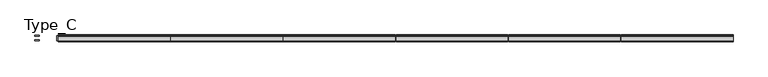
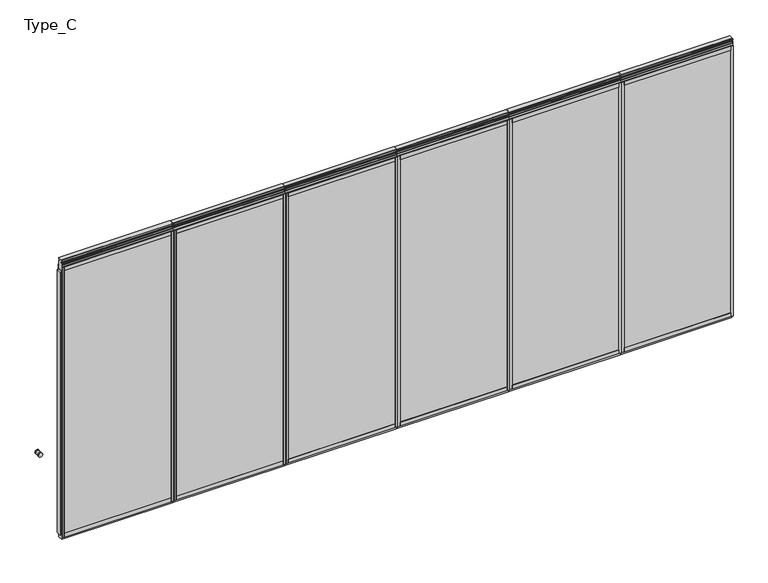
"""IFC4 building model written with IfcOpenShell, lengths in millimetres: proxy geometry, Planner Wall_ダブルガラス(Door) : Type_C."""

from ifc_helpers import new_model, si_unit, point, frame, frame_2d, origin, origin_with_axes, place, context, project, spatial, polyline, circle_curve, trimmed, segment, composite_curve, outline, extrude, source, transform, mapped, element, save


def type_c_f462f6c3(model_context):
    return source(origin(), model_context, "Body", "SweptSolid", [
        extrude(outline(polyline([(1177.125, -25.0), (1177.125, 25.0), (2319.25, 25.0), (2319.25, -25.0), (1177.125, -25.0)])), origin_with_axes(), (0.0, 0.0, 1.0), 65.0),
        extrude(outline(polyline([(2302.75, 25.0), (1199.125, 25.0), (1199.125, 35.0), (2302.75, 35.0), (2302.75, 25.0)])), frame((0.0, 0.0, 2935.0), z_axis=(0.0, 0.0, 1.0), x_axis=(1.0, 0.0, 0.0)), (0.0, 0.0, 1.0), 40.0),
        extrude(outline(polyline([(2302.75, 25.0), (1199.125, 25.0), (1199.125, 35.0), (2302.75, 35.0), (2302.75, 25.0)])), frame((0.0, 0.0, 25.0), z_axis=(0.0, 0.0, 1.0), x_axis=(1.0, 0.0, 0.0)), (0.0, 0.0, 1.0), 40.0),
        extrude(outline(polyline([(1217.125, -27.0), (1199.125, -27.0), (1199.125, 27.0), (1217.125, 27.0), (1217.125, -27.0)])), frame((0.0, 0.0, 65.0), z_axis=(0.0, 0.0, 1.0), x_axis=(1.0, 0.0, 0.0)), (0.0, 0.0, 1.0), 2870.0),
        extrude(outline(polyline([(2302.75, -27.0), (2284.75, -27.0), (2284.75, 27.0), (2302.75, 27.0), (2302.75, -27.0)])), frame((0.0, 0.0, 65.0), z_axis=(0.0, 0.0, 1.0), x_axis=(1.0, 0.0, 0.0)), (0.0, 0.0, 1.0), 2870.0),
        extrude(outline(polyline([(2284.75, -27.0), (1217.125, -27.0), (1217.125, 27.0), (2284.75, 27.0), (2284.75, -27.0)])), frame((0.0, 0.0, 65.0), z_axis=(0.0, 0.0, 1.0), x_axis=(1.0, 0.0, 0.0)), (0.0, 0.0, 1.0), 102.0),
        extrude(outline(polyline([(2284.75, -27.0), (1217.125, -27.0), (1217.125, 27.0), (2284.75, 27.0), (2284.75, -27.0)])), frame((0.0, 0.0, 2833.0), z_axis=(0.0, 0.0, 1.0), x_axis=(1.0, 0.0, 0.0)), (0.0, 0.0, 1.0), 102.0),
        extrude(outline(composite_curve([segment(polyline([(23.5, 3050.1000003), (26.5, 3047.1000003), (26.5, 3032.6)]), True, "CONTINUOUS"), segment(trimmed(circle_curve(frame_2d((25.0, 3032.6)), 1.5), [point((26.5, 3032.6))], [point((25.0, 3031.1))], False, "CARTESIAN"), True, "CONTINUOUS"), segment(polyline([(25.0, 3031.1), (9.0, 3031.1), (9.0, 3019.1000003), (23.5, 3019.1000003), (26.5, 3016.1000003), (26.5, 3001.5)]), True, "CONTINUOUS"), segment(trimmed(circle_curve(frame_2d((25.0, 3001.5)), 1.5), [point((26.5, 3001.5))], [point((25.0, 3000.0))], False, "CARTESIAN"), True, "CONTINUOUS"), segment(polyline([(25.0, 3000.0), (7.5, 3000.0), (7.5, 2994.5), (25.0, 2994.5), (25.0, 2935.0), (-25.0, 2935.0), (-25.0, 2994.5), (-7.5, 2994.5), (-7.5, 3000.0), (-25.0, 3000.0)]), True, "CONTINUOUS"), segment(trimmed(circle_curve(frame_2d((-25.0, 3001.5)), 1.5), [point((-25.0, 3000.0))], [point((-26.5, 3001.5))], False, "CARTESIAN"), True, "CONTINUOUS"), segment(polyline([(-26.5, 3001.5), (-26.5, 3016.1000003), (-23.5, 3019.1000003), (-9.0, 3019.1000003), (-9.0, 3031.1), (-25.0, 3031.1)]), True, "CONTINUOUS"), segment(trimmed(circle_curve(frame_2d((-25.0, 3032.6)), 1.5), [point((-25.0, 3031.1))], [point((-26.5, 3032.6))], False, "CARTESIAN"), True, "CONTINUOUS"), segment(polyline([(-26.5, 3032.6), (-26.5, 3047.1000003), (-23.5, 3050.1000003), (23.5, 3050.1000003)]), True, "CONTINUOUS")], self_intersect=False)), frame((1177.125, 0.0, 0.0), z_axis=(1.0, 0.0, 0.0), x_axis=(0.0, 1.0, 0.0)), (0.0, 0.0, 1.0), 1147.625),
        extrude(outline(polyline([(2302.75, 27.5), (1199.125, 27.5), (1199.125, 32.5), (2302.75, 32.5), (2302.75, 27.5)])), frame((0.0, 0.0, 65.0), z_axis=(0.0, 0.0, 1.0), x_axis=(1.0, 0.0, 0.0)), (0.0, 0.0, 1.0), 2870.0),
        extrude(outline(polyline([(2302.75, -32.5), (1199.125, -32.5), (1199.125, -27.5), (2302.75, -27.5), (2302.75, -32.5)])), frame((0.0, 0.0, 65.0), z_axis=(0.0, 0.0, 1.0), x_axis=(1.0, 0.0, 0.0)), (0.0, 0.0, 1.0), 2870.0),
        extrude(outline(polyline([(2302.75, -35.0), (1199.125, -35.0), (1199.125, -25.0), (2302.75, -25.0), (2302.75, -35.0)])), frame((0.0, 0.0, 2935.0), z_axis=(0.0, 0.0, 1.0), x_axis=(1.0, 0.0, 0.0)), (0.0, 0.0, 1.0), 40.0),
        extrude(outline(polyline([(2302.75, -35.0), (1199.125, -35.0), (1199.125, -25.0), (2302.75, -25.0), (2302.75, -35.0)])), frame((0.0, 0.0, 25.0), z_axis=(0.0, 0.0, 1.0), x_axis=(1.0, 0.0, 0.0)), (0.0, 0.0, 1.0), 40.0),
        extrude(outline(polyline([(1163.625, -25.0), (1163.625, 25.0), (1177.125, 25.0), (1177.125, -25.0), (1163.625, -25.0)])), frame((0.0, 0.0, 53.0), z_axis=(0.0, 0.0, 1.0), x_axis=(1.0, 0.0, 0.0)), (0.0, 0.0, 1.0), 2869.0),
        extrude(outline(polyline([(2302.75, 35.0), (2324.75, 35.0), (2324.75, 25.0), (2302.75, 25.0), (2302.75, 35.0)])), frame((0.0, 0.0, 25.0), z_axis=(0.0, 0.0, 1.0), x_axis=(1.0, 0.0, 0.0)), (0.0, 0.0, 1.0), 2950.0),
        extrude(outline(polyline([(2302.75, -35.0), (2302.75, -25.0), (2324.75, -25.0), (2324.75, -35.0), (2302.75, -35.0)])), frame((0.0, 0.0, 25.0), z_axis=(0.0, 0.0, 1.0), x_axis=(1.0, 0.0, 0.0)), (0.0, 0.0, 1.0), 2950.0),
        extrude(outline(polyline([(1177.125, -35.0), (1177.125, -25.0), (1199.125, -25.0), (1199.125, -35.0), (1177.125, -35.0)])), frame((0.0, 0.0, 25.0), z_axis=(0.0, 0.0, 1.0), x_axis=(1.0, 0.0, 0.0)), (0.0, 0.0, 1.0), 2950.0),
        extrude(outline(polyline([(1177.125, 25.0), (1177.125, 35.0), (1199.125, 35.0), (1199.125, 25.0), (1177.125, 25.0)])), frame((0.0, 0.0, 25.0), z_axis=(0.0, 0.0, 1.0), x_axis=(1.0, 0.0, 0.0)), (0.0, 0.0, 1.0), 2950.0),
        extrude(outline(polyline([(2332.75, -25.0), (2332.75, 25.0), (3474.875, 25.0), (3474.875, -25.0), (2332.75, -25.0)])), origin_with_axes(), (0.0, 0.0, 1.0), 65.0),
        extrude(outline(polyline([(3458.375, 25.0), (2354.75, 25.0), (2354.75, 35.0), (3458.375, 35.0), (3458.375, 25.0)])), frame((0.0, 0.0, 2935.0), z_axis=(0.0, 0.0, 1.0), x_axis=(1.0, 0.0, 0.0)), (0.0, 0.0, 1.0), 40.0),
        extrude(outline(polyline([(3458.375, 25.0), (2354.75, 25.0), (2354.75, 35.0), (3458.375, 35.0), (3458.375, 25.0)])), frame((0.0, 0.0, 25.0), z_axis=(0.0, 0.0, 1.0), x_axis=(1.0, 0.0, 0.0)), (0.0, 0.0, 1.0), 40.0),
        extrude(outline(polyline([(2372.75, -27.0), (2354.75, -27.0), (2354.75, 27.0), (2372.75, 27.0), (2372.75, -27.0)])), frame((0.0, 0.0, 65.0), z_axis=(0.0, 0.0, 1.0), x_axis=(1.0, 0.0, 0.0)), (0.0, 0.0, 1.0), 2870.0),
        extrude(outline(polyline([(3458.375, -27.0), (3440.375, -27.0), (3440.375, 27.0), (3458.375, 27.0), (3458.375, -27.0)])), frame((0.0, 0.0, 65.0), z_axis=(0.0, 0.0, 1.0), x_axis=(1.0, 0.0, 0.0)), (0.0, 0.0, 1.0), 2870.0),
        extrude(outline(polyline([(3440.375, -27.0), (2372.75, -27.0), (2372.75, 27.0), (3440.375, 27.0), (3440.375, -27.0)])), frame((0.0, 0.0, 65.0), z_axis=(0.0, 0.0, 1.0), x_axis=(1.0, 0.0, 0.0)), (0.0, 0.0, 1.0), 102.0),
        extrude(outline(polyline([(3440.375, -27.0), (2372.75, -27.0), (2372.75, 27.0), (3440.375, 27.0), (3440.375, -27.0)])), frame((0.0, 0.0, 2833.0), z_axis=(0.0, 0.0, 1.0), x_axis=(1.0, 0.0, 0.0)), (0.0, 0.0, 1.0), 102.0),
        extrude(outline(composite_curve([segment(polyline([(23.5, 3050.1000003), (26.5, 3047.1000003), (26.5, 3032.6)]), True, "CONTINUOUS"), segment(trimmed(circle_curve(frame_2d((25.0, 3032.6)), 1.5), [point((26.5, 3032.6))], [point((25.0, 3031.1))], False, "CARTESIAN"), True, "CONTINUOUS"), segment(polyline([(25.0, 3031.1), (9.0, 3031.1), (9.0, 3019.1000003), (23.5, 3019.1000003), (26.5, 3016.1000003), (26.5, 3001.5)]), True, "CONTINUOUS"), segment(trimmed(circle_curve(frame_2d((25.0, 3001.5)), 1.5), [point((26.5, 3001.5))], [point((25.0, 3000.0))], False, "CARTESIAN"), True, "CONTINUOUS"), segment(polyline([(25.0, 3000.0), (7.5, 3000.0), (7.5, 2994.5), (25.0, 2994.5), (25.0, 2935.0), (-25.0, 2935.0), (-25.0, 2994.5), (-7.5, 2994.5), (-7.5, 3000.0), (-25.0, 3000.0)]), True, "CONTINUOUS"), segment(trimmed(circle_curve(frame_2d((-25.0, 3001.5)), 1.5), [point((-25.0, 3000.0))], [point((-26.5, 3001.5))], False, "CARTESIAN"), True, "CONTINUOUS"), segment(polyline([(-26.5, 3001.5), (-26.5, 3016.1000003), (-23.5, 3019.1000003), (-9.0, 3019.1000003), (-9.0, 3031.1), (-25.0, 3031.1)]), True, "CONTINUOUS"), segment(trimmed(circle_curve(frame_2d((-25.0, 3032.6)), 1.5), [point((-25.0, 3031.1))], [point((-26.5, 3032.6))], False, "CARTESIAN"), True, "CONTINUOUS"), segment(polyline([(-26.5, 3032.6), (-26.5, 3047.1000003), (-23.5, 3050.1000003), (23.5, 3050.1000003)]), True, "CONTINUOUS")], self_intersect=False)), frame((2332.75, 0.0, 0.0), z_axis=(1.0, 0.0, 0.0), x_axis=(0.0, 1.0, 0.0)), (0.0, 0.0, 1.0), 1147.625),
        extrude(outline(polyline([(3458.375, 27.5), (2354.75, 27.5), (2354.75, 32.5), (3458.375, 32.5), (3458.375, 27.5)])), frame((0.0, 0.0, 65.0), z_axis=(0.0, 0.0, 1.0), x_axis=(1.0, 0.0, 0.0)), (0.0, 0.0, 1.0), 2870.0),
        extrude(outline(polyline([(3458.375, -32.5), (2354.75, -32.5), (2354.75, -27.5), (3458.375, -27.5), (3458.375, -32.5)])), frame((0.0, 0.0, 65.0), z_axis=(0.0, 0.0, 1.0), x_axis=(1.0, 0.0, 0.0)), (0.0, 0.0, 1.0), 2870.0),
        extrude(outline(polyline([(3458.375, -35.0), (2354.75, -35.0), (2354.75, -25.0), (3458.375, -25.0), (3458.375, -35.0)])), frame((0.0, 0.0, 2935.0), z_axis=(0.0, 0.0, 1.0), x_axis=(1.0, 0.0, 0.0)), (0.0, 0.0, 1.0), 40.0),
        extrude(outline(polyline([(3458.375, -35.0), (2354.75, -35.0), (2354.75, -25.0), (3458.375, -25.0), (3458.375, -35.0)])), frame((0.0, 0.0, 25.0), z_axis=(0.0, 0.0, 1.0), x_axis=(1.0, 0.0, 0.0)), (0.0, 0.0, 1.0), 40.0),
        extrude(outline(polyline([(2319.25, -25.0), (2319.25, 25.0), (2332.75, 25.0), (2332.75, -25.0), (2319.25, -25.0)])), frame((0.0, 0.0, 53.0), z_axis=(0.0, 0.0, 1.0), x_axis=(1.0, 0.0, 0.0)), (0.0, 0.0, 1.0), 2869.0),
        extrude(outline(polyline([(3458.375, 35.0), (3480.375, 35.0), (3480.375, 25.0), (3458.375, 25.0), (3458.375, 35.0)])), frame((0.0, 0.0, 25.0), z_axis=(0.0, 0.0, 1.0), x_axis=(1.0, 0.0, 0.0)), (0.0, 0.0, 1.0), 2950.0),
        extrude(outline(polyline([(3458.375, -35.0), (3458.375, -25.0), (3480.375, -25.0), (3480.375, -35.0), (3458.375, -35.0)])), frame((0.0, 0.0, 25.0), z_axis=(0.0, 0.0, 1.0), x_axis=(1.0, 0.0, 0.0)), (0.0, 0.0, 1.0), 2950.0),
        extrude(outline(polyline([(2332.75, -35.0), (2332.75, -25.0), (2354.75, -25.0), (2354.75, -35.0), (2332.75, -35.0)])), frame((0.0, 0.0, 25.0), z_axis=(0.0, 0.0, 1.0), x_axis=(1.0, 0.0, 0.0)), (0.0, 0.0, 1.0), 2950.0),
        extrude(outline(polyline([(2332.75, 25.0), (2332.75, 35.0), (2354.75, 35.0), (2354.75, 25.0), (2332.75, 25.0)])), frame((0.0, 0.0, 25.0), z_axis=(0.0, 0.0, 1.0), x_axis=(1.0, 0.0, 0.0)), (0.0, 0.0, 1.0), 2950.0),
        extrude(outline(polyline([(3488.375, -25.0), (3488.375, 25.0), (4630.5, 25.0), (4630.5, -25.0), (3488.375, -25.0)])), origin_with_axes(), (0.0, 0.0, 1.0), 65.0),
        extrude(outline(polyline([(4614.0, 25.0), (3510.375, 25.0), (3510.375, 35.0), (4614.0, 35.0), (4614.0, 25.0)])), frame((0.0, 0.0, 2935.0), z_axis=(0.0, 0.0, 1.0), x_axis=(1.0, 0.0, 0.0)), (0.0, 0.0, 1.0), 40.0),
        extrude(outline(polyline([(4614.0, 25.0), (3510.375, 25.0), (3510.375, 35.0), (4614.0, 35.0), (4614.0, 25.0)])), frame((0.0, 0.0, 25.0), z_axis=(0.0, 0.0, 1.0), x_axis=(1.0, 0.0, 0.0)), (0.0, 0.0, 1.0), 40.0),
        extrude(outline(polyline([(3528.375, -27.0), (3510.375, -27.0), (3510.375, 27.0), (3528.375, 27.0), (3528.375, -27.0)])), frame((0.0, 0.0, 65.0), z_axis=(0.0, 0.0, 1.0), x_axis=(1.0, 0.0, 0.0)), (0.0, 0.0, 1.0), 2870.0),
        extrude(outline(polyline([(4614.0, -27.0), (4596.0, -27.0), (4596.0, 27.0), (4614.0, 27.0), (4614.0, -27.0)])), frame((0.0, 0.0, 65.0), z_axis=(0.0, 0.0, 1.0), x_axis=(1.0, 0.0, 0.0)), (0.0, 0.0, 1.0), 2870.0),
        extrude(outline(polyline([(4596.0, -27.0), (3528.375, -27.0), (3528.375, 27.0), (4596.0, 27.0), (4596.0, -27.0)])), frame((0.0, 0.0, 65.0), z_axis=(0.0, 0.0, 1.0), x_axis=(1.0, 0.0, 0.0)), (0.0, 0.0, 1.0), 102.0),
        extrude(outline(polyline([(4596.0, -27.0), (3528.375, -27.0), (3528.375, 27.0), (4596.0, 27.0), (4596.0, -27.0)])), frame((0.0, 0.0, 2833.0), z_axis=(0.0, 0.0, 1.0), x_axis=(1.0, 0.0, 0.0)), (0.0, 0.0, 1.0), 102.0),
        extrude(outline(composite_curve([segment(polyline([(23.5, 3050.1000003), (26.5, 3047.1000003), (26.5, 3032.6)]), True, "CONTINUOUS"), segment(trimmed(circle_curve(frame_2d((25.0, 3032.6)), 1.5), [point((26.5, 3032.6))], [point((25.0, 3031.1))], False, "CARTESIAN"), True, "CONTINUOUS"), segment(polyline([(25.0, 3031.1), (9.0, 3031.1), (9.0, 3019.1000003), (23.5, 3019.1000003), (26.5, 3016.1000003), (26.5, 3001.5)]), True, "CONTINUOUS"), segment(trimmed(circle_curve(frame_2d((25.0, 3001.5)), 1.5), [point((26.5, 3001.5))], [point((25.0, 3000.0))], False, "CARTESIAN"), True, "CONTINUOUS"), segment(polyline([(25.0, 3000.0), (7.5, 3000.0), (7.5, 2994.5), (25.0, 2994.5), (25.0, 2935.0), (-25.0, 2935.0), (-25.0, 2994.5), (-7.5, 2994.5), (-7.5, 3000.0), (-25.0, 3000.0)]), True, "CONTINUOUS"), segment(trimmed(circle_curve(frame_2d((-25.0, 3001.5)), 1.5), [point((-25.0, 3000.0))], [point((-26.5, 3001.5))], False, "CARTESIAN"), True, "CONTINUOUS"), segment(polyline([(-26.5, 3001.5), (-26.5, 3016.1000003), (-23.5, 3019.1000003), (-9.0, 3019.1000003), (-9.0, 3031.1), (-25.0, 3031.1)]), True, "CONTINUOUS"), segment(trimmed(circle_curve(frame_2d((-25.0, 3032.6)), 1.5), [point((-25.0, 3031.1))], [point((-26.5, 3032.6))], False, "CARTESIAN"), True, "CONTINUOUS"), segment(polyline([(-26.5, 3032.6), (-26.5, 3047.1000003), (-23.5, 3050.1000003), (23.5, 3050.1000003)]), True, "CONTINUOUS")], self_intersect=False)), frame((3488.375, 0.0, 0.0), z_axis=(1.0, 0.0, 0.0), x_axis=(0.0, 1.0, 0.0)), (0.0, 0.0, 1.0), 1147.625),
        extrude(outline(polyline([(4614.0, 27.5), (3510.375, 27.5), (3510.375, 32.5), (4614.0, 32.5), (4614.0, 27.5)])), frame((0.0, 0.0, 65.0), z_axis=(0.0, 0.0, 1.0), x_axis=(1.0, 0.0, 0.0)), (0.0, 0.0, 1.0), 2870.0),
        extrude(outline(polyline([(4614.0, -32.5), (3510.375, -32.5), (3510.375, -27.5), (4614.0, -27.5), (4614.0, -32.5)])), frame((0.0, 0.0, 65.0), z_axis=(0.0, 0.0, 1.0), x_axis=(1.0, 0.0, 0.0)), (0.0, 0.0, 1.0), 2870.0),
        extrude(outline(polyline([(4614.0, -35.0), (3510.375, -35.0), (3510.375, -25.0), (4614.0, -25.0), (4614.0, -35.0)])), frame((0.0, 0.0, 2935.0), z_axis=(0.0, 0.0, 1.0), x_axis=(1.0, 0.0, 0.0)), (0.0, 0.0, 1.0), 40.0),
        extrude(outline(polyline([(4614.0, -35.0), (3510.375, -35.0), (3510.375, -25.0), (4614.0, -25.0), (4614.0, -35.0)])), frame((0.0, 0.0, 25.0), z_axis=(0.0, 0.0, 1.0), x_axis=(1.0, 0.0, 0.0)), (0.0, 0.0, 1.0), 40.0),
        extrude(outline(polyline([(3474.875, -25.0), (3474.875, 25.0), (3488.375, 25.0), (3488.375, -25.0), (3474.875, -25.0)])), frame((0.0, 0.0, 53.0), z_axis=(0.0, 0.0, 1.0), x_axis=(1.0, 0.0, 0.0)), (0.0, 0.0, 1.0), 2869.0),
        extrude(outline(polyline([(4614.0, 35.0), (4636.0, 35.0), (4636.0, 25.0), (4614.0, 25.0), (4614.0, 35.0)])), frame((0.0, 0.0, 25.0), z_axis=(0.0, 0.0, 1.0), x_axis=(1.0, 0.0, 0.0)), (0.0, 0.0, 1.0), 2950.0),
        extrude(outline(polyline([(4614.0, -35.0), (4614.0, -25.0), (4636.0, -25.0), (4636.0, -35.0), (4614.0, -35.0)])), frame((0.0, 0.0, 25.0), z_axis=(0.0, 0.0, 1.0), x_axis=(1.0, 0.0, 0.0)), (0.0, 0.0, 1.0), 2950.0),
        extrude(outline(polyline([(3488.375, -35.0), (3488.375, -25.0), (3510.375, -25.0), (3510.375, -35.0), (3488.375, -35.0)])), frame((0.0, 0.0, 25.0), z_axis=(0.0, 0.0, 1.0), x_axis=(1.0, 0.0, 0.0)), (0.0, 0.0, 1.0), 2950.0),
        extrude(outline(polyline([(3488.375, 25.0), (3488.375, 35.0), (3510.375, 35.0), (3510.375, 25.0), (3488.375, 25.0)])), frame((0.0, 0.0, 25.0), z_axis=(0.0, 0.0, 1.0), x_axis=(1.0, 0.0, 0.0)), (0.0, 0.0, 1.0), 2950.0),
        extrude(outline(polyline([(4644.0, -25.0), (4644.0, 25.0), (5786.125, 25.0), (5786.125, -25.0), (4644.0, -25.0)])), origin_with_axes(), (0.0, 0.0, 1.0), 65.0),
        extrude(outline(polyline([(5769.625, 25.0), (4666.0, 25.0), (4666.0, 35.0), (5769.625, 35.0), (5769.625, 25.0)])), frame((0.0, 0.0, 2935.0), z_axis=(0.0, 0.0, 1.0), x_axis=(1.0, 0.0, 0.0)), (0.0, 0.0, 1.0), 40.0),
        extrude(outline(polyline([(5769.625, 25.0), (4666.0, 25.0), (4666.0, 35.0), (5769.625, 35.0), (5769.625, 25.0)])), frame((0.0, 0.0, 25.0), z_axis=(0.0, 0.0, 1.0), x_axis=(1.0, 0.0, 0.0)), (0.0, 0.0, 1.0), 40.0),
        extrude(outline(polyline([(4684.0, -27.0), (4666.0, -27.0), (4666.0, 27.0), (4684.0, 27.0), (4684.0, -27.0)])), frame((0.0, 0.0, 65.0), z_axis=(0.0, 0.0, 1.0), x_axis=(1.0, 0.0, 0.0)), (0.0, 0.0, 1.0), 2870.0),
        extrude(outline(polyline([(5769.625, -27.0), (5751.625, -27.0), (5751.625, 27.0), (5769.625, 27.0), (5769.625, -27.0)])), frame((0.0, 0.0, 65.0), z_axis=(0.0, 0.0, 1.0), x_axis=(1.0, 0.0, 0.0)), (0.0, 0.0, 1.0), 2870.0),
        extrude(outline(polyline([(5751.625, -27.0), (4684.0, -27.0), (4684.0, 27.0), (5751.625, 27.0), (5751.625, -27.0)])), frame((0.0, 0.0, 65.0), z_axis=(0.0, 0.0, 1.0), x_axis=(1.0, 0.0, 0.0)), (0.0, 0.0, 1.0), 102.0),
        extrude(outline(polyline([(5751.625, -27.0), (4684.0, -27.0), (4684.0, 27.0), (5751.625, 27.0), (5751.625, -27.0)])), frame((0.0, 0.0, 2833.0), z_axis=(0.0, 0.0, 1.0), x_axis=(1.0, 0.0, 0.0)), (0.0, 0.0, 1.0), 102.0),
        extrude(outline(composite_curve([segment(polyline([(23.5, 3050.1000003), (26.5, 3047.1000003), (26.5, 3032.6)]), True, "CONTINUOUS"), segment(trimmed(circle_curve(frame_2d((25.0, 3032.6)), 1.5), [point((26.5, 3032.6))], [point((25.0, 3031.1))], False, "CARTESIAN"), True, "CONTINUOUS"), segment(polyline([(25.0, 3031.1), (9.0, 3031.1), (9.0, 3019.1000003), (23.5, 3019.1000003), (26.5, 3016.1000003), (26.5, 3001.5)]), True, "CONTINUOUS"), segment(trimmed(circle_curve(frame_2d((25.0, 3001.5)), 1.5), [point((26.5, 3001.5))], [point((25.0, 3000.0))], False, "CARTESIAN"), True, "CONTINUOUS"), segment(polyline([(25.0, 3000.0), (7.5, 3000.0), (7.5, 2994.5), (25.0, 2994.5), (25.0, 2935.0), (-25.0, 2935.0), (-25.0, 2994.5), (-7.5, 2994.5), (-7.5, 3000.0), (-25.0, 3000.0)]), True, "CONTINUOUS"), segment(trimmed(circle_curve(frame_2d((-25.0, 3001.5)), 1.5), [point((-25.0, 3000.0))], [point((-26.5, 3001.5))], False, "CARTESIAN"), True, "CONTINUOUS"), segment(polyline([(-26.5, 3001.5), (-26.5, 3016.1000003), (-23.5, 3019.1000003), (-9.0, 3019.1000003), (-9.0, 3031.1), (-25.0, 3031.1)]), True, "CONTINUOUS"), segment(trimmed(circle_curve(frame_2d((-25.0, 3032.6)), 1.5), [point((-25.0, 3031.1))], [point((-26.5, 3032.6))], False, "CARTESIAN"), True, "CONTINUOUS"), segment(polyline([(-26.5, 3032.6), (-26.5, 3047.1000003), (-23.5, 3050.1000003), (23.5, 3050.1000003)]), True, "CONTINUOUS")], self_intersect=False)), frame((4644.0, 0.0, 0.0), z_axis=(1.0, 0.0, 0.0), x_axis=(0.0, 1.0, 0.0)), (0.0, 0.0, 1.0), 1147.625),
        extrude(outline(polyline([(5769.625, 27.5), (4666.0, 27.5), (4666.0, 32.5), (5769.625, 32.5), (5769.625, 27.5)])), frame((0.0, 0.0, 65.0), z_axis=(0.0, 0.0, 1.0), x_axis=(1.0, 0.0, 0.0)), (0.0, 0.0, 1.0), 2870.0),
        extrude(outline(polyline([(5769.625, -32.5), (4666.0, -32.5), (4666.0, -27.5), (5769.625, -27.5), (5769.625, -32.5)])), frame((0.0, 0.0, 65.0), z_axis=(0.0, 0.0, 1.0), x_axis=(1.0, 0.0, 0.0)), (0.0, 0.0, 1.0), 2870.0),
        extrude(outline(polyline([(5769.625, -35.0), (4666.0, -35.0), (4666.0, -25.0), (5769.625, -25.0), (5769.625, -35.0)])), frame((0.0, 0.0, 2935.0), z_axis=(0.0, 0.0, 1.0), x_axis=(1.0, 0.0, 0.0)), (0.0, 0.0, 1.0), 40.0),
        extrude(outline(polyline([(5769.625, -35.0), (4666.0, -35.0), (4666.0, -25.0), (5769.625, -25.0), (5769.625, -35.0)])), frame((0.0, 0.0, 25.0), z_axis=(0.0, 0.0, 1.0), x_axis=(1.0, 0.0, 0.0)), (0.0, 0.0, 1.0), 40.0),
        extrude(outline(polyline([(4630.5, -25.0), (4630.5, 25.0), (4644.0, 25.0), (4644.0, -25.0), (4630.5, -25.0)])), frame((0.0, 0.0, 53.0), z_axis=(0.0, 0.0, 1.0), x_axis=(1.0, 0.0, 0.0)), (0.0, 0.0, 1.0), 2869.0),
        extrude(outline(polyline([(5769.625, 35.0), (5791.625, 35.0), (5791.625, 25.0), (5769.625, 25.0), (5769.625, 35.0)])), frame((0.0, 0.0, 25.0), z_axis=(0.0, 0.0, 1.0), x_axis=(1.0, 0.0, 0.0)), (0.0, 0.0, 1.0), 2950.0),
        extrude(outline(polyline([(5769.625, -35.0), (5769.625, -25.0), (5791.625, -25.0), (5791.625, -35.0), (5769.625, -35.0)])), frame((0.0, 0.0, 25.0), z_axis=(0.0, 0.0, 1.0), x_axis=(1.0, 0.0, 0.0)), (0.0, 0.0, 1.0), 2950.0),
        extrude(outline(polyline([(4644.0, -35.0), (4644.0, -25.0), (4666.0, -25.0), (4666.0, -35.0), (4644.0, -35.0)])), frame((0.0, 0.0, 25.0), z_axis=(0.0, 0.0, 1.0), x_axis=(1.0, 0.0, 0.0)), (0.0, 0.0, 1.0), 2950.0),
        extrude(outline(polyline([(4644.0, 25.0), (4644.0, 35.0), (4666.0, 35.0), (4666.0, 25.0), (4644.0, 25.0)])), frame((0.0, 0.0, 25.0), z_axis=(0.0, 0.0, 1.0), x_axis=(1.0, 0.0, 0.0)), (0.0, 0.0, 1.0), 2950.0),
        extrude(outline(polyline([(5799.625, -25.0), (5799.625, 25.0), (6941.75, 25.0), (6941.75, -25.0), (5799.625, -25.0)])), origin_with_axes(), (0.0, 0.0, 1.0), 65.0),
        extrude(outline(polyline([(6925.25, 25.0), (5821.625, 25.0), (5821.625, 35.0), (6925.25, 35.0), (6925.25, 25.0)])), frame((0.0, 0.0, 2935.0), z_axis=(0.0, 0.0, 1.0), x_axis=(1.0, 0.0, 0.0)), (0.0, 0.0, 1.0), 40.0),
        extrude(outline(polyline([(6925.25, 25.0), (5821.625, 25.0), (5821.625, 35.0), (6925.25, 35.0), (6925.25, 25.0)])), frame((0.0, 0.0, 25.0), z_axis=(0.0, 0.0, 1.0), x_axis=(1.0, 0.0, 0.0)), (0.0, 0.0, 1.0), 40.0),
        extrude(outline(polyline([(5839.625, -27.0), (5821.625, -27.0), (5821.625, 27.0), (5839.625, 27.0), (5839.625, -27.0)])), frame((0.0, 0.0, 65.0), z_axis=(0.0, 0.0, 1.0), x_axis=(1.0, 0.0, 0.0)), (0.0, 0.0, 1.0), 2870.0),
        extrude(outline(polyline([(6925.25, -27.0), (6907.25, -27.0), (6907.25, 27.0), (6925.25, 27.0), (6925.25, -27.0)])), frame((0.0, 0.0, 65.0), z_axis=(0.0, 0.0, 1.0), x_axis=(1.0, 0.0, 0.0)), (0.0, 0.0, 1.0), 2870.0),
        extrude(outline(polyline([(6907.25, -27.0), (5839.625, -27.0), (5839.625, 27.0), (6907.25, 27.0), (6907.25, -27.0)])), frame((0.0, 0.0, 65.0), z_axis=(0.0, 0.0, 1.0), x_axis=(1.0, 0.0, 0.0)), (0.0, 0.0, 1.0), 102.0),
        extrude(outline(polyline([(6907.25, -27.0), (5839.625, -27.0), (5839.625, 27.0), (6907.25, 27.0), (6907.25, -27.0)])), frame((0.0, 0.0, 2833.0), z_axis=(0.0, 0.0, 1.0), x_axis=(1.0, 0.0, 0.0)), (0.0, 0.0, 1.0), 102.0),
        extrude(outline(composite_curve([segment(polyline([(23.5, 3050.1000003), (26.5, 3047.1000003), (26.5, 3032.6)]), True, "CONTINUOUS"), segment(trimmed(circle_curve(frame_2d((25.0, 3032.6)), 1.5), [point((26.5, 3032.6))], [point((25.0, 3031.1))], False, "CARTESIAN"), True, "CONTINUOUS"), segment(polyline([(25.0, 3031.1), (9.0, 3031.1), (9.0, 3019.1000003), (23.5, 3019.1000003), (26.5, 3016.1000003), (26.5, 3001.5)]), True, "CONTINUOUS"), segment(trimmed(circle_curve(frame_2d((25.0, 3001.5)), 1.5), [point((26.5, 3001.5))], [point((25.0, 3000.0))], False, "CARTESIAN"), True, "CONTINUOUS"), segment(polyline([(25.0, 3000.0), (7.5, 3000.0), (7.5, 2994.5), (25.0, 2994.5), (25.0, 2935.0), (-25.0, 2935.0), (-25.0, 2994.5), (-7.5, 2994.5), (-7.5, 3000.0), (-25.0, 3000.0)]), True, "CONTINUOUS"), segment(trimmed(circle_curve(frame_2d((-25.0, 3001.5)), 1.5), [point((-25.0, 3000.0))], [point((-26.5, 3001.5))], False, "CARTESIAN"), True, "CONTINUOUS"), segment(polyline([(-26.5, 3001.5), (-26.5, 3016.1000003), (-23.5, 3019.1000003), (-9.0, 3019.1000003), (-9.0, 3031.1), (-25.0, 3031.1)]), True, "CONTINUOUS"), segment(trimmed(circle_curve(frame_2d((-25.0, 3032.6)), 1.5), [point((-25.0, 3031.1))], [point((-26.5, 3032.6))], False, "CARTESIAN"), True, "CONTINUOUS"), segment(polyline([(-26.5, 3032.6), (-26.5, 3047.1000003), (-23.5, 3050.1000003), (23.5, 3050.1000003)]), True, "CONTINUOUS")], self_intersect=False)), frame((5799.625, 0.0, 0.0), z_axis=(1.0, 0.0, 0.0), x_axis=(0.0, 1.0, 0.0)), (0.0, 0.0, 1.0), 1147.625),
        extrude(outline(polyline([(6925.25, 27.5), (5821.625, 27.5), (5821.625, 32.5), (6925.25, 32.5), (6925.25, 27.5)])), frame((0.0, 0.0, 65.0), z_axis=(0.0, 0.0, 1.0), x_axis=(1.0, 0.0, 0.0)), (0.0, 0.0, 1.0), 2870.0),
        extrude(outline(polyline([(6925.25, -32.5), (5821.625, -32.5), (5821.625, -27.5), (6925.25, -27.5), (6925.25, -32.5)])), frame((0.0, 0.0, 65.0), z_axis=(0.0, 0.0, 1.0), x_axis=(1.0, 0.0, 0.0)), (0.0, 0.0, 1.0), 2870.0),
        extrude(outline(polyline([(6925.25, -35.0), (5821.625, -35.0), (5821.625, -25.0), (6925.25, -25.0), (6925.25, -35.0)])), frame((0.0, 0.0, 2935.0), z_axis=(0.0, 0.0, 1.0), x_axis=(1.0, 0.0, 0.0)), (0.0, 0.0, 1.0), 40.0),
        extrude(outline(polyline([(6925.25, -35.0), (5821.625, -35.0), (5821.625, -25.0), (6925.25, -25.0), (6925.25, -35.0)])), frame((0.0, 0.0, 25.0), z_axis=(0.0, 0.0, 1.0), x_axis=(1.0, 0.0, 0.0)), (0.0, 0.0, 1.0), 40.0),
        extrude(outline(polyline([(5786.125, -25.0), (5786.125, 25.0), (5799.625, 25.0), (5799.625, -25.0), (5786.125, -25.0)])), frame((0.0, 0.0, 53.0), z_axis=(0.0, 0.0, 1.0), x_axis=(1.0, 0.0, 0.0)), (0.0, 0.0, 1.0), 2869.0),
        extrude(outline(polyline([(6925.25, 35.0), (6947.25, 35.0), (6947.25, 25.0), (6925.25, 25.0), (6925.25, 35.0)])), frame((0.0, 0.0, 25.0), z_axis=(0.0, 0.0, 1.0), x_axis=(1.0, 0.0, 0.0)), (0.0, 0.0, 1.0), 2950.0),
        extrude(outline(polyline([(6925.25, -35.0), (6925.25, -25.0), (6947.25, -25.0), (6947.25, -35.0), (6925.25, -35.0)])), frame((0.0, 0.0, 25.0), z_axis=(0.0, 0.0, 1.0), x_axis=(1.0, 0.0, 0.0)), (0.0, 0.0, 1.0), 2950.0),
        extrude(outline(polyline([(5799.625, -35.0), (5799.625, -25.0), (5821.625, -25.0), (5821.625, -35.0), (5799.625, -35.0)])), frame((0.0, 0.0, 25.0), z_axis=(0.0, 0.0, 1.0), x_axis=(1.0, 0.0, 0.0)), (0.0, 0.0, 1.0), 2950.0),
        extrude(outline(polyline([(5799.625, 25.0), (5799.625, 35.0), (5821.625, 35.0), (5821.625, 25.0), (5799.625, 25.0)])), frame((0.0, 0.0, 25.0), z_axis=(0.0, 0.0, 1.0), x_axis=(1.0, 0.0, 0.0)), (0.0, 0.0, 1.0), 2950.0),
        extrude(outline(polyline([(6955.25, -25.0), (6955.25, 25.0), (8097.375, 25.0), (8097.375, -25.0), (6955.25, -25.0)])), origin_with_axes(), (0.0, 0.0, 1.0), 65.0),
        extrude(outline(polyline([(8080.875, 25.0), (6977.25, 25.0), (6977.25, 35.0), (8080.875, 35.0), (8080.875, 25.0)])), frame((0.0, 0.0, 2935.0), z_axis=(0.0, 0.0, 1.0), x_axis=(1.0, 0.0, 0.0)), (0.0, 0.0, 1.0), 40.0),
        extrude(outline(polyline([(8080.875, 25.0), (6977.25, 25.0), (6977.25, 35.0), (8080.875, 35.0), (8080.875, 25.0)])), frame((0.0, 0.0, 25.0), z_axis=(0.0, 0.0, 1.0), x_axis=(1.0, 0.0, 0.0)), (0.0, 0.0, 1.0), 40.0),
        extrude(outline(polyline([(6995.25, -27.0), (6977.25, -27.0), (6977.25, 27.0), (6995.25, 27.0), (6995.25, -27.0)])), frame((0.0, 0.0, 65.0), z_axis=(0.0, 0.0, 1.0), x_axis=(1.0, 0.0, 0.0)), (0.0, 0.0, 1.0), 2870.0),
        extrude(outline(polyline([(8080.875, -27.0), (8062.875, -27.0), (8062.875, 27.0), (8080.875, 27.0), (8080.875, -27.0)])), frame((0.0, 0.0, 65.0), z_axis=(0.0, 0.0, 1.0), x_axis=(1.0, 0.0, 0.0)), (0.0, 0.0, 1.0), 2870.0),
        extrude(outline(polyline([(8062.875, -27.0), (6995.25, -27.0), (6995.25, 27.0), (8062.875, 27.0), (8062.875, -27.0)])), frame((0.0, 0.0, 65.0), z_axis=(0.0, 0.0, 1.0), x_axis=(1.0, 0.0, 0.0)), (0.0, 0.0, 1.0), 102.0),
        extrude(outline(polyline([(8062.875, -27.0), (6995.25, -27.0), (6995.25, 27.0), (8062.875, 27.0), (8062.875, -27.0)])), frame((0.0, 0.0, 2833.0), z_axis=(0.0, 0.0, 1.0), x_axis=(1.0, 0.0, 0.0)), (0.0, 0.0, 1.0), 102.0),
        extrude(outline(composite_curve([segment(polyline([(23.5, 3050.1000003), (26.5, 3047.1000003), (26.5, 3032.6)]), True, "CONTINUOUS"), segment(trimmed(circle_curve(frame_2d((25.0, 3032.6)), 1.5), [point((26.5, 3032.6))], [point((25.0, 3031.1))], False, "CARTESIAN"), True, "CONTINUOUS"), segment(polyline([(25.0, 3031.1), (9.0, 3031.1), (9.0, 3019.1000003), (23.5, 3019.1000003), (26.5, 3016.1000003), (26.5, 3001.5)]), True, "CONTINUOUS"), segment(trimmed(circle_curve(frame_2d((25.0, 3001.5)), 1.5), [point((26.5, 3001.5))], [point((25.0, 3000.0))], False, "CARTESIAN"), True, "CONTINUOUS"), segment(polyline([(25.0, 3000.0), (7.5, 3000.0), (7.5, 2994.5), (25.0, 2994.5), (25.0, 2935.0), (-25.0, 2935.0), (-25.0, 2994.5), (-7.5, 2994.5), (-7.5, 3000.0), (-25.0, 3000.0)]), True, "CONTINUOUS"), segment(trimmed(circle_curve(frame_2d((-25.0, 3001.5)), 1.5), [point((-25.0, 3000.0))], [point((-26.5, 3001.5))], False, "CARTESIAN"), True, "CONTINUOUS"), segment(polyline([(-26.5, 3001.5), (-26.5, 3016.1000003), (-23.5, 3019.1000003), (-9.0, 3019.1000003), (-9.0, 3031.1), (-25.0, 3031.1)]), True, "CONTINUOUS"), segment(trimmed(circle_curve(frame_2d((-25.0, 3032.6)), 1.5), [point((-25.0, 3031.1))], [point((-26.5, 3032.6))], False, "CARTESIAN"), True, "CONTINUOUS"), segment(polyline([(-26.5, 3032.6), (-26.5, 3047.1000003), (-23.5, 3050.1000003), (23.5, 3050.1000003)]), True, "CONTINUOUS")], self_intersect=False)), frame((6955.25, 0.0, 0.0), z_axis=(1.0, 0.0, 0.0), x_axis=(0.0, 1.0, 0.0)), (0.0, 0.0, 1.0), 1147.625),
        extrude(outline(polyline([(8080.875, 27.5), (6977.25, 27.5), (6977.25, 32.5), (8080.875, 32.5), (8080.875, 27.5)])), frame((0.0, 0.0, 65.0), z_axis=(0.0, 0.0, 1.0), x_axis=(1.0, 0.0, 0.0)), (0.0, 0.0, 1.0), 2870.0),
        extrude(outline(polyline([(8080.875, -32.5), (6977.25, -32.5), (6977.25, -27.5), (8080.875, -27.5), (8080.875, -32.5)])), frame((0.0, 0.0, 65.0), z_axis=(0.0, 0.0, 1.0), x_axis=(1.0, 0.0, 0.0)), (0.0, 0.0, 1.0), 2870.0),
        extrude(outline(polyline([(8080.875, -35.0), (6977.25, -35.0), (6977.25, -25.0), (8080.875, -25.0), (8080.875, -35.0)])), frame((0.0, 0.0, 2935.0), z_axis=(0.0, 0.0, 1.0), x_axis=(1.0, 0.0, 0.0)), (0.0, 0.0, 1.0), 40.0),
        extrude(outline(polyline([(8080.875, -35.0), (6977.25, -35.0), (6977.25, -25.0), (8080.875, -25.0), (8080.875, -35.0)])), frame((0.0, 0.0, 25.0), z_axis=(0.0, 0.0, 1.0), x_axis=(1.0, 0.0, 0.0)), (0.0, 0.0, 1.0), 40.0),
        extrude(outline(polyline([(6941.75, -25.0), (6941.75, 25.0), (6955.25, 25.0), (6955.25, -25.0), (6941.75, -25.0)])), frame((0.0, 0.0, 53.0), z_axis=(0.0, 0.0, 1.0), x_axis=(1.0, 0.0, 0.0)), (0.0, 0.0, 1.0), 2869.0),
        extrude(outline(polyline([(8080.875, 35.0), (8102.875, 35.0), (8102.875, 25.0), (8080.875, 25.0), (8080.875, 35.0)])), frame((0.0, 0.0, 25.0), z_axis=(0.0, 0.0, 1.0), x_axis=(1.0, 0.0, 0.0)), (0.0, 0.0, 1.0), 2950.0),
        extrude(outline(polyline([(8080.875, -35.0), (8080.875, -25.0), (8102.875, -25.0), (8102.875, -35.0), (8080.875, -35.0)])), frame((0.0, 0.0, 25.0), z_axis=(0.0, 0.0, 1.0), x_axis=(1.0, 0.0, 0.0)), (0.0, 0.0, 1.0), 2950.0),
        extrude(outline(polyline([(6955.25, -35.0), (6955.25, -25.0), (6977.25, -25.0), (6977.25, -35.0), (6955.25, -35.0)])), frame((0.0, 0.0, 25.0), z_axis=(0.0, 0.0, 1.0), x_axis=(1.0, 0.0, 0.0)), (0.0, 0.0, 1.0), 2950.0),
        extrude(outline(polyline([(6955.25, 25.0), (6955.25, 35.0), (6977.25, 35.0), (6977.25, 25.0), (6955.25, 25.0)])), frame((0.0, 0.0, 25.0), z_axis=(0.0, 0.0, 1.0), x_axis=(1.0, 0.0, 0.0)), (0.0, 0.0, 1.0), 2950.0),
        extrude(outline(composite_curve([segment(trimmed(circle_curve(frame_2d((1000.0, 959.125)), 22.0), [point((1000.0, 981.125))], [point((1000.0, 937.125))], False, "CARTESIAN"), True, "CONTINUOUS"), segment(trimmed(circle_curve(frame_2d((1000.0, 959.125)), 22.0), [point((1000.0, 937.125))], [point((1000.0, 981.125))], False, "CARTESIAN"), True, "CONTINUOUS")], self_intersect=False)), frame((0.0, 23.5, 0.0), z_axis=(0.0, 1.0, 0.0), x_axis=(0.0, 0.0, 1.0)), (0.0, 0.0, 1.0), 10.0),
        extrude(outline(composite_curve([segment(trimmed(circle_curve(frame_2d((1000.0, 959.125)), 22.0), [point((1000.0, 981.125))], [point((1000.0, 937.125))], False, "CARTESIAN"), True, "CONTINUOUS"), segment(trimmed(circle_curve(frame_2d((1000.0, 959.125)), 22.0), [point((1000.0, 937.125))], [point((1000.0, 981.125))], False, "CARTESIAN"), True, "CONTINUOUS")], self_intersect=False)), frame((0.0, -26.5, 0.0), z_axis=(0.0, 1.0, 0.0), x_axis=(0.0, 0.0, 1.0)), (0.0, 0.0, 1.0), 10.0),
    ])


if __name__ == "__main__":
    model = new_model("IFC4")
    model_context = context("Model", 3, world=origin())
    ifc_project = project(units=[si_unit("LENGTHUNIT", "METRE", prefix="MILLI")], contexts=[model_context])
    site = spatial("IfcSite", under=ifc_project)
    building = spatial("IfcBuilding", under=site)
    placement = place(None, origin())
    type_c_shape = type_c_f462f6c3(model_context)
    element("IfcBuildingElementProxy", 1, Name="Planner Wall_ダブルガラス(Door) : Type_C", ObjectType="Planner Wall_ダブルガラス(Door) : Type_C", at=placement, inside=building, context=model_context, shape_type="MappedRepresentation", body=[
        mapped(type_c_shape, transform((0.0, 0.0, 0.0), x_axis=(1.0, 0.0, 0.0), y_axis=(0.0, 1.0, 0.0), z_axis=(0.0, 0.0, 1.0))),
    ])
    save(model, "model.ifc")
